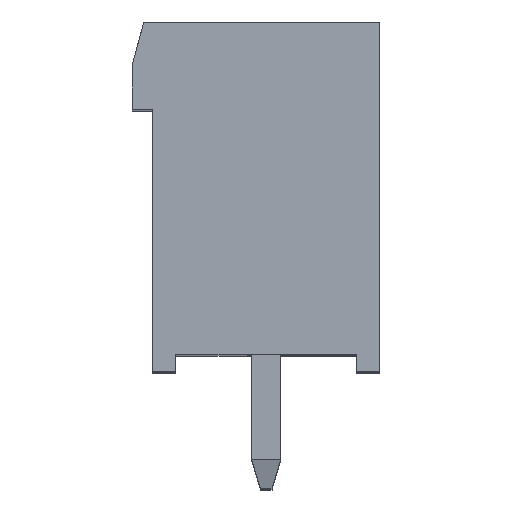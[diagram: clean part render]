
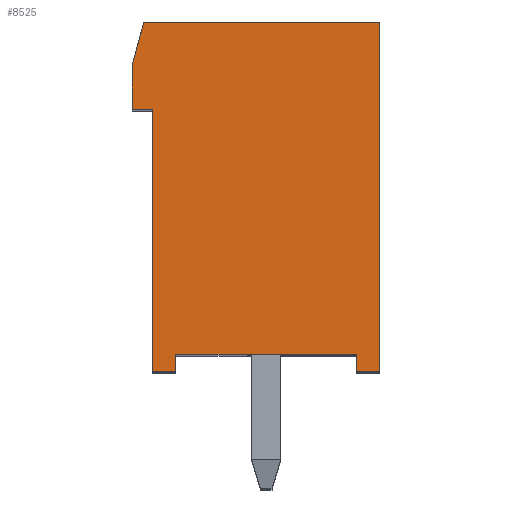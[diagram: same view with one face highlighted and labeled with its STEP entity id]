
A CAD part, top view. The second image highlights one B-rep face of the part: STEP entity #8525.
In plain terms, the highlighted planar face has unit normal (0, 0, 1).
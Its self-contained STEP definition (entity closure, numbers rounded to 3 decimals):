
#155 = CARTESIAN_POINT ( 'NONE',  ( -0.8, -0.6, 0. ) ) ;
#172 = CARTESIAN_POINT ( 'NONE',  ( -8.1, 8.4, 0. ) ) ;
#301 = VECTOR ( 'NONE', #8360, 1000. ) ;
#316 = CARTESIAN_POINT ( 'NONE',  ( 0., -0.6, 0. ) ) ;
#390 = CARTESIAN_POINT ( 'NONE',  ( -7., -0.8, 0. ) ) ;
#454 = LINE ( 'NONE', #390, #8684 ) ;
#476 = VECTOR ( 'NONE', #7934, 1000. ) ;
#866 = ORIENTED_EDGE ( 'NONE', *, *, #1749, .T. ) ;
#891 = CARTESIAN_POINT ( 'NONE',  ( -7.8, 8.4, 0. ) ) ;
#1212 = CARTESIAN_POINT ( 'NONE',  ( -7., -0.6, 0. ) ) ;
#1294 = ORIENTED_EDGE ( 'NONE', *, *, #1319, .F. ) ;
#1307 = ORIENTED_EDGE ( 'NONE', *, *, #9268, .F. ) ;
#1319 = EDGE_CURVE ( 'NONE', #2002, #5013, #6761, .T. ) ;
#1328 = DIRECTION ( 'NONE',  ( 0., 1., 0. ) ) ;
#1367 = LINE ( 'NONE', #2759, #2854 ) ;
#1478 = VECTOR ( 'NONE', #5607, 1000. ) ;
#1489 = CARTESIAN_POINT ( 'NONE',  ( 189.167, 0., 0. ) ) ;
#1503 = LINE ( 'NONE', #3701, #476 ) ;
#1526 = VERTEX_POINT ( 'NONE', #2259 ) ;
#1548 = EDGE_CURVE ( 'NONE', #6989, #3628, #7082, .T. ) ;
#1699 = ORIENTED_EDGE ( 'NONE', *, *, #8227, .F. ) ;
#1721 = CARTESIAN_POINT ( 'NONE',  ( -7.8, -0.6, 0. ) ) ;
#1749 = EDGE_CURVE ( 'NONE', #3331, #2316, #2477, .T. ) ;
#1853 = CARTESIAN_POINT ( 'NONE',  ( -8.5, 9.907, 0. ) ) ;
#1975 = DIRECTION ( 'NONE',  ( 0., 0., 1. ) ) ;
#1979 = VECTOR ( 'NONE', #4437, 1000. ) ;
#2002 = VERTEX_POINT ( 'NONE', #316 ) ;
#2259 = CARTESIAN_POINT ( 'NONE',  ( -0.8, 0., 0. ) ) ;
#2316 = VERTEX_POINT ( 'NONE', #5729 ) ;
#2403 = CARTESIAN_POINT ( 'NONE',  ( -8.5, 8.4, 0. ) ) ;
#2477 = LINE ( 'NONE', #8475, #7638 ) ;
#2570 = ORIENTED_EDGE ( 'NONE', *, *, #8146, .F. ) ;
#2759 = CARTESIAN_POINT ( 'NONE',  ( -0.8, 254.533, 0. ) ) ;
#2854 = VECTOR ( 'NONE', #4355, 1000. ) ;
#3157 = CARTESIAN_POINT ( 'NONE',  ( 189.167, 254.533, 0. ) ) ;
#3331 = VERTEX_POINT ( 'NONE', #3644 ) ;
#3433 = LINE ( 'NONE', #5705, #1478 ) ;
#3448 = CARTESIAN_POINT ( 'NONE',  ( -7., 0., 0. ) ) ;
#3455 = AXIS2_PLACEMENT_3D ( 'NONE', #3157, #1975, #1328 ) ;
#3541 = VECTOR ( 'NONE', #3976, 1000. ) ;
#3571 = EDGE_CURVE ( 'NONE', #3628, #8853, #5502, .T. ) ;
#3598 = VERTEX_POINT ( 'NONE', #1721 ) ;
#3628 = VERTEX_POINT ( 'NONE', #2403 ) ;
#3644 = CARTESIAN_POINT ( 'NONE',  ( 0., 11.4, 0. ) ) ;
#3701 = CARTESIAN_POINT ( 'NONE',  ( -7.8, 254.533, 0. ) ) ;
#3889 = PLANE ( 'NONE',  #3455 ) ;
#3976 = DIRECTION ( 'NONE',  ( 0., -1., 0. ) ) ;
#4000 = EDGE_CURVE ( 'NONE', #6989, #3598, #1503, .T. ) ;
#4355 = DIRECTION ( 'NONE',  ( 0., -1., 0. ) ) ;
#4437 = DIRECTION ( 'NONE',  ( 1., 0., 0. ) ) ;
#4487 = VERTEX_POINT ( 'NONE', #1212 ) ;
#4506 = LINE ( 'NONE', #1489, #1979 ) ;
#4581 = ORIENTED_EDGE ( 'NONE', *, *, #8174, .T. ) ;
#4609 = ORIENTED_EDGE ( 'NONE', *, *, #3571, .F. ) ;
#4660 = LINE ( 'NONE', #9160, #301 ) ;
#4666 = DIRECTION ( 'NONE',  ( 0., 1., 0. ) ) ;
#4908 = DIRECTION ( 'NONE',  ( -1., 0., 0. ) ) ;
#5013 = VERTEX_POINT ( 'NONE', #155 ) ;
#5502 = LINE ( 'NONE', #8936, #8388 ) ;
#5548 = ORIENTED_EDGE ( 'NONE', *, *, #4000, .T. ) ;
#5552 = CARTESIAN_POINT ( 'NONE',  ( 0., 11.4, 0. ) ) ;
#5607 = DIRECTION ( 'NONE',  ( 0.259, 0.966, 0. ) ) ;
#5705 = CARTESIAN_POINT ( 'NONE',  ( -8.5, 9.907, 0. ) ) ;
#5729 = CARTESIAN_POINT ( 'NONE',  ( -8.1, 11.4, 0. ) ) ;
#5878 = ORIENTED_EDGE ( 'NONE', *, *, #6074, .T. ) ;
#6001 = FACE_OUTER_BOUND ( 'NONE', #6959, .T. ) ;
#6074 = EDGE_CURVE ( 'NONE', #6955, #1526, #4506, .T. ) ;
#6310 = VECTOR ( 'NONE', #4908, 1000. ) ;
#6613 = ORIENTED_EDGE ( 'NONE', *, *, #8237, .F. ) ;
#6761 = LINE ( 'NONE', #9195, #6310 ) ;
#6882 = DIRECTION ( 'NONE',  ( 0., -1., 0. ) ) ;
#6955 = VERTEX_POINT ( 'NONE', #3448 ) ;
#6959 = EDGE_LOOP ( 'NONE', ( #4581, #1294, #6613, #866, #2570, #4609, #8165, #5548, #1307, #1699, #5878 ) ) ;
#6989 = VERTEX_POINT ( 'NONE', #891 ) ;
#7082 = LINE ( 'NONE', #172, #8658 ) ;
#7638 = VECTOR ( 'NONE', #9278, 1000. ) ;
#7934 = DIRECTION ( 'NONE',  ( 0., -1., 0. ) ) ;
#8146 = EDGE_CURVE ( 'NONE', #8853, #2316, #3433, .T. ) ;
#8165 = ORIENTED_EDGE ( 'NONE', *, *, #1548, .F. ) ;
#8174 = EDGE_CURVE ( 'NONE', #1526, #5013, #1367, .T. ) ;
#8227 = EDGE_CURVE ( 'NONE', #6955, #4487, #454, .T. ) ;
#8237 = EDGE_CURVE ( 'NONE', #3331, #2002, #9049, .T. ) ;
#8360 = DIRECTION ( 'NONE',  ( -1., 0., 0. ) ) ;
#8388 = VECTOR ( 'NONE', #4666, 1000. ) ;
#8475 = CARTESIAN_POINT ( 'NONE',  ( 189.167, 11.4, 0. ) ) ;
#8525 = ADVANCED_FACE ( 'NONE', ( #6001 ), #3889, .T. ) ;
#8658 = VECTOR ( 'NONE', #8736, 1000. ) ;
#8684 = VECTOR ( 'NONE', #6882, 1000. ) ;
#8736 = DIRECTION ( 'NONE',  ( -1., 0., 0. ) ) ;
#8853 = VERTEX_POINT ( 'NONE', #1853 ) ;
#8936 = CARTESIAN_POINT ( 'NONE',  ( -8.5, 8.4, 0. ) ) ;
#9049 = LINE ( 'NONE', #5552, #3541 ) ;
#9160 = CARTESIAN_POINT ( 'NONE',  ( -7.1, -0.6, 0. ) ) ;
#9195 = CARTESIAN_POINT ( 'NONE',  ( -0.293, -0.6, 0. ) ) ;
#9268 = EDGE_CURVE ( 'NONE', #4487, #3598, #4660, .T. ) ;
#9278 = DIRECTION ( 'NONE',  ( -1., 0., 0. ) ) ;
